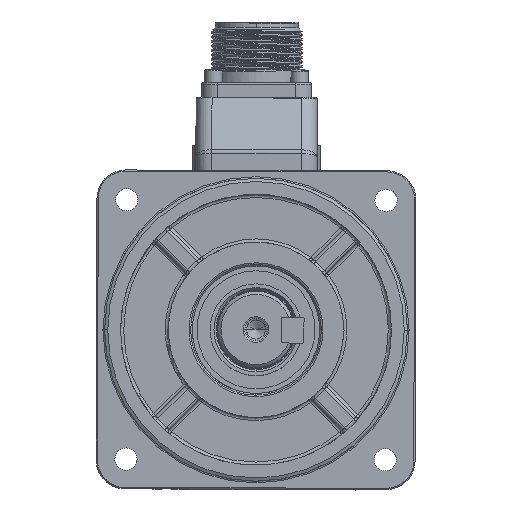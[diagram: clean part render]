
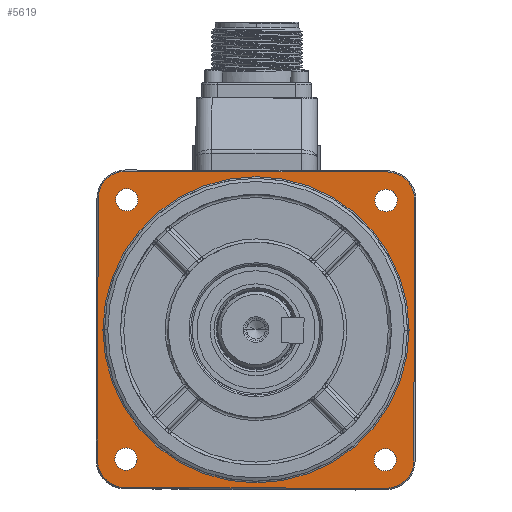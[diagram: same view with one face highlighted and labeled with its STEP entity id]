
A CAD part, top view. The second image highlights one B-rep face of the part: STEP entity #5619.
In plain terms, the highlighted planar face has unit normal (0, 0, 1) as drawn and (0, 1, 0) by its records, which use the part's own axes.
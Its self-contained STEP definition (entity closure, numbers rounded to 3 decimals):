
#156=CARTESIAN_POINT('',(-41.,0.,-41.));
#157=DIRECTION('',(0.,-1.,0.));
#158=DIRECTION('',(-1.,0.,0.));
#159=AXIS2_PLACEMENT_3D('',#156,#157,#158);
#161=DIRECTION('',(1.,0.,0.));
#162=VECTOR('',#161,82.);
#163=CARTESIAN_POINT('',(-41.,0.,
-49.6));
#164=LINE('',#163,#162);
#165=CARTESIAN_POINT('',(41.,0.,-41.));
#166=DIRECTION('',(0.,-1.,0.));
#167=DIRECTION('',(0.,0.,-1.));
#168=AXIS2_PLACEMENT_3D('',#165,#166,#167);
#170=DIRECTION('',(0.,0.,1.));
#171=VECTOR('',#170,82.);
#172=CARTESIAN_POINT('',(49.6,0.,
-41.));
#173=LINE('',#172,#171);
#174=CARTESIAN_POINT('',(41.,0.,41.));
#175=DIRECTION('',(0.,-1.,0.));
#176=DIRECTION('',(1.,0.,0.));
#177=AXIS2_PLACEMENT_3D('',#174,#175,#176);
#179=DIRECTION('',(-1.,0.,0.));
#180=VECTOR('',#179,82.);
#181=CARTESIAN_POINT('',(41.,0.,49.6));
#182=LINE('',#181,#180);
#183=CARTESIAN_POINT('',(-41.,0.,41.));
#184=DIRECTION('',(0.,-1.,0.));
#185=DIRECTION('',(0.,0.,1.));
#186=AXIS2_PLACEMENT_3D('',#183,#184,#185);
#188=DIRECTION('',(0.,0.,-1.));
#189=VECTOR('',#188,82.);
#190=CARTESIAN_POINT('',(-49.6,0.,
41.));
#191=LINE('',#190,#189);
#192=CARTESIAN_POINT('',(-40.659,0.,-40.659));
#193=DIRECTION('',(0.,1.,0.));
#194=DIRECTION('',(0.,0.,1.));
#195=AXIS2_PLACEMENT_3D('',#192,#193,#194);
#197=CARTESIAN_POINT('',(-40.659,0.,-40.659));
#198=DIRECTION('',(0.,1.,0.));
#199=DIRECTION('',(0.,0.,-1.));
#200=AXIS2_PLACEMENT_3D('',#197,#198,#199);
#202=CARTESIAN_POINT('',(-40.659,0.,40.659));
#203=DIRECTION('',(0.,1.,0.));
#204=DIRECTION('',(1.,0.,0.));
#205=AXIS2_PLACEMENT_3D('',#202,#203,#204);
#207=CARTESIAN_POINT('',(-40.659,0.,40.659));
#208=DIRECTION('',(0.,1.,0.));
#209=DIRECTION('',(-1.,0.,0.));
#210=AXIS2_PLACEMENT_3D('',#207,#208,#209);
#212=CARTESIAN_POINT('',(40.659,0.,40.659));
#213=DIRECTION('',(0.,1.,0.));
#214=DIRECTION('',(0.,0.,-1.));
#215=AXIS2_PLACEMENT_3D('',#212,#213,#214);
#217=CARTESIAN_POINT('',(40.659,0.,40.659));
#218=DIRECTION('',(0.,1.,0.));
#219=DIRECTION('',(0.,0.,1.));
#220=AXIS2_PLACEMENT_3D('',#217,#218,#219);
#222=CARTESIAN_POINT('',(0.,0.,0.));
#223=DIRECTION('',(0.,1.,0.));
#224=DIRECTION('',(-1.,0.,0.));
#225=AXIS2_PLACEMENT_3D('',#222,#223,#224);
#227=CARTESIAN_POINT('',(0.,0.,0.));
#228=DIRECTION('',(0.,1.,0.));
#229=DIRECTION('',(-1.,0.,0.005));
#230=AXIS2_PLACEMENT_3D('',#227,#228,#229);
#232=CARTESIAN_POINT('',(0.,0.,0.));
#233=DIRECTION('',(0.,1.,0.));
#234=DIRECTION('',(1.,0.,0.));
#235=AXIS2_PLACEMENT_3D('',#232,#233,#234);
#237=CARTESIAN_POINT('',(0.,0.,0.));
#238=DIRECTION('',(0.,1.,0.));
#239=DIRECTION('',(1.,0.,-0.005));
#240=AXIS2_PLACEMENT_3D('',#237,#238,#239);
#242=CARTESIAN_POINT('',(40.659,0.,-40.659));
#243=DIRECTION('',(0.,1.,0.));
#244=DIRECTION('',(-1.,0.,0.));
#245=AXIS2_PLACEMENT_3D('',#242,#243,#244);
#247=CARTESIAN_POINT('',(40.659,0.,-40.659));
#248=DIRECTION('',(0.,1.,0.));
#249=DIRECTION('',(1.,0.,0.));
#250=AXIS2_PLACEMENT_3D('',#247,#248,#249);
#4357=CARTESIAN_POINT('',(48.,0.,0.));
#4358=VERTEX_POINT('',#4357);
#4359=CARTESIAN_POINT('',(-47.999,0.,0.254));
#4360=VERTEX_POINT('',#4359);
#4361=CARTESIAN_POINT('',(-48.,0.,0.));
#4362=VERTEX_POINT('',#4361);
#4363=CARTESIAN_POINT('',(47.999,0.,-0.254));
#4364=VERTEX_POINT('',#4363);
#4365=CARTESIAN_POINT('',(-49.6,0.,-41.));
#4366=CARTESIAN_POINT('',(-41.,0.,-49.6));
#4367=VERTEX_POINT('',#4365);
#4368=VERTEX_POINT('',#4366);
#4369=CARTESIAN_POINT('',(41.,0.,
-49.6));
#4370=VERTEX_POINT('',#4369);
#4371=CARTESIAN_POINT('',(49.6,0.,-41.));
#4372=VERTEX_POINT('',#4371);
#4373=CARTESIAN_POINT('',(49.6,0.,
41.));
#4374=VERTEX_POINT('',#4373);
#4375=CARTESIAN_POINT('',(41.,0.,49.6));
#4376=VERTEX_POINT('',#4375);
#4377=CARTESIAN_POINT('',(-41.,0.,
49.6));
#4378=VERTEX_POINT('',#4377);
#4379=CARTESIAN_POINT('',(-49.6,0.,41.));
#4380=VERTEX_POINT('',#4379);
#4381=CARTESIAN_POINT('',(-40.659,0.,-37.159));
#4382=CARTESIAN_POINT('',(-40.659,0.,-44.159));
#4383=VERTEX_POINT('',#4381);
#4384=VERTEX_POINT('',#4382);
#4385=CARTESIAN_POINT('',(-37.159,0.,40.659));
#4386=CARTESIAN_POINT('',(-44.159,0.,40.659));
#4387=VERTEX_POINT('',#4385);
#4388=VERTEX_POINT('',#4386);
#4389=CARTESIAN_POINT('',(40.659,0.,37.159));
#4390=CARTESIAN_POINT('',(40.659,0.,44.159));
#4391=VERTEX_POINT('',#4389);
#4392=VERTEX_POINT('',#4390);
#4393=CARTESIAN_POINT('',(37.159,0.,-40.659));
#4394=CARTESIAN_POINT('',(44.159,0.,-40.659));
#4395=VERTEX_POINT('',#4393);
#4396=VERTEX_POINT('',#4394);
#5566=CARTESIAN_POINT('',(0.,0.,0.));
#5567=DIRECTION('',(0.,-1.,0.));
#5568=DIRECTION('',(-1.,0.,0.));
#5569=AXIS2_PLACEMENT_3D('',#5566,#5567,#5568);
#5570=PLANE('',#5569);
#5572=ORIENTED_EDGE('',*,*,#5571,.T.);
#5574=ORIENTED_EDGE('',*,*,#5573,.T.);
#5576=ORIENTED_EDGE('',*,*,#5575,.T.);
#5578=ORIENTED_EDGE('',*,*,#5577,.T.);
#5580=ORIENTED_EDGE('',*,*,#5579,.T.);
#5582=ORIENTED_EDGE('',*,*,#5581,.T.);
#5584=ORIENTED_EDGE('',*,*,#5583,.T.);
#5586=ORIENTED_EDGE('',*,*,#5585,.T.);
#5587=EDGE_LOOP('',(#5572,#5574,#5576,#5578,#5580,#5582,#5584,#5586));
#5588=FACE_OUTER_BOUND('',#5587,.F.);
#5590=ORIENTED_EDGE('',*,*,#5589,.T.);
#5592=ORIENTED_EDGE('',*,*,#5591,.T.);
#5593=EDGE_LOOP('',(#5590,#5592));
#5594=FACE_BOUND('',#5593,.F.);
#5596=ORIENTED_EDGE('',*,*,#5595,.T.);
#5598=ORIENTED_EDGE('',*,*,#5597,.T.);
#5599=EDGE_LOOP('',(#5596,#5598));
#5600=FACE_BOUND('',#5599,.F.);
#5602=ORIENTED_EDGE('',*,*,#5601,.T.);
#5604=ORIENTED_EDGE('',*,*,#5603,.T.);
#5605=EDGE_LOOP('',(#5602,#5604));
#5606=FACE_BOUND('',#5605,.F.);
#5607=ORIENTED_EDGE('',*,*,#5543,.T.);
#5608=ORIENTED_EDGE('',*,*,#5541,.T.);
#5609=ORIENTED_EDGE('',*,*,#5560,.T.);
#5610=ORIENTED_EDGE('',*,*,#5558,.T.);
#5611=EDGE_LOOP('',(#5607,#5608,#5609,#5610));
#5612=FACE_BOUND('',#5611,.F.);
#5614=ORIENTED_EDGE('',*,*,#5613,.T.);
#5616=ORIENTED_EDGE('',*,*,#5615,.T.);
#5617=EDGE_LOOP('',(#5614,#5616));
#5618=FACE_BOUND('',#5617,.F.);
#5619=ADVANCED_FACE('',(#5588,#5594,#5600,#5606,#5612,#5618),#5570,.F.);
#160=CIRCLE('',#159,8.6);
#169=CIRCLE('',#168,8.6);
#178=CIRCLE('',#177,8.6);
#187=CIRCLE('',#186,8.6);
#196=CIRCLE('',#195,3.5);
#201=CIRCLE('',#200,3.5);
#206=CIRCLE('',#205,3.5);
#211=CIRCLE('',#210,3.5);
#216=CIRCLE('',#215,3.5);
#221=CIRCLE('',#220,3.5);
#226=CIRCLE('',#225,48.);
#231=CIRCLE('',#230,48.);
#236=CIRCLE('',#235,48.);
#241=CIRCLE('',#240,48.);
#246=CIRCLE('',#245,3.5);
#251=CIRCLE('',#250,3.5);
#5541=EDGE_CURVE('',#4360,#4358,#231,.T.);
#5543=EDGE_CURVE('',#4362,#4360,#226,.T.);
#5558=EDGE_CURVE('',#4364,#4362,#241,.T.);
#5560=EDGE_CURVE('',#4358,#4364,#236,.T.);
#5571=EDGE_CURVE('',#4367,#4368,#160,.T.);
#5573=EDGE_CURVE('',#4368,#4370,#164,.T.);
#5575=EDGE_CURVE('',#4370,#4372,#169,.T.);
#5577=EDGE_CURVE('',#4372,#4374,#173,.T.);
#5579=EDGE_CURVE('',#4374,#4376,#178,.T.);
#5581=EDGE_CURVE('',#4376,#4378,#182,.T.);
#5583=EDGE_CURVE('',#4378,#4380,#187,.T.);
#5585=EDGE_CURVE('',#4380,#4367,#191,.T.);
#5589=EDGE_CURVE('',#4383,#4384,#196,.T.);
#5591=EDGE_CURVE('',#4384,#4383,#201,.T.);
#5595=EDGE_CURVE('',#4387,#4388,#206,.T.);
#5597=EDGE_CURVE('',#4388,#4387,#211,.T.);
#5601=EDGE_CURVE('',#4391,#4392,#216,.T.);
#5603=EDGE_CURVE('',#4392,#4391,#221,.T.);
#5613=EDGE_CURVE('',#4395,#4396,#246,.T.);
#5615=EDGE_CURVE('',#4396,#4395,#251,.T.);
